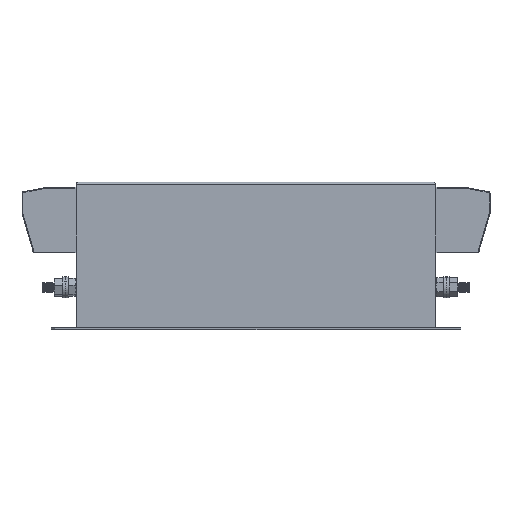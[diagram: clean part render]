
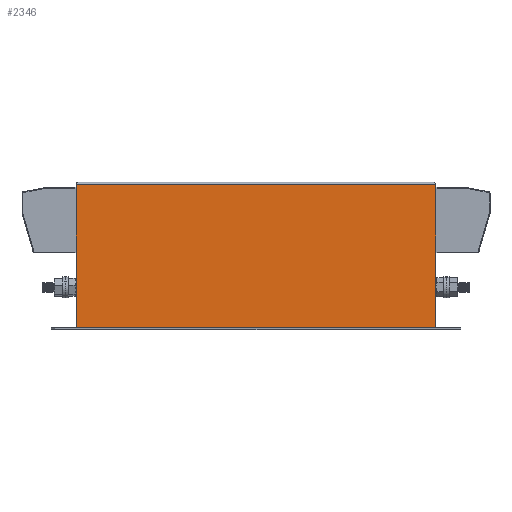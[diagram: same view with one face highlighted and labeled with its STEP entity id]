
A CAD part, top view. The second image highlights one B-rep face of the part: STEP entity #2346.
In plain terms, the highlighted planar face has unit normal (0, 0, 1).
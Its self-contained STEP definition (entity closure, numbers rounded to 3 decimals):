
#2263 = VERTEX_POINT ( 'NONE', #7028 ) ;
#2269 = VERTEX_POINT ( 'NONE', #7018 ) ;
#2271 = EDGE_CURVE ( 'NONE', #2263, #2269, #7017, .T. ) ;
#2346 = ADVANCED_FACE ( 'NONE', ( #7167 ), #7166, .F. ) ;
#2347 = EDGE_LOOP ( 'NONE', ( #2348, #2351, #2353, #2413 ) ) ;
#2348 = ORIENTED_EDGE ( 'NONE', *, *, #2349, .F. ) ;
#2349 = EDGE_CURVE ( 'NONE', #2350, #2269, #7161, .T. ) ;
#2350 = VERTEX_POINT ( 'NONE', #7157 ) ;
#2351 = ORIENTED_EDGE ( 'NONE', *, *, #2352, .T. ) ;
#2352 = EDGE_CURVE ( 'NONE', #2350, #2366, #7156, .T. ) ;
#2353 = ORIENTED_EDGE ( 'NONE', *, *, #2365, .T. ) ;
#2365 = EDGE_CURVE ( 'NONE', #2366, #2263, #7204, .T. ) ;
#2366 = VERTEX_POINT ( 'NONE', #7200 ) ;
#2413 = ORIENTED_EDGE ( 'NONE', *, *, #2271, .T. ) ;
#7014 = DIRECTION ( 'NONE',  ( 1., 0., 0. ) ) ;
#7015 = VECTOR ( 'NONE', #7014, 1000. ) ;
#7016 = CARTESIAN_POINT ( 'NONE',  ( 15., 1.2, 1.2 ) ) ;
#7017 = LINE ( 'NONE', #7016, #7015 ) ;
#7018 = CARTESIAN_POINT ( 'NONE',  ( 235., 1.2, 1.2 ) ) ;
#7028 = CARTESIAN_POINT ( 'NONE',  ( 15., 1.2, 1.2 ) ) ;
#7153 = DIRECTION ( 'NONE',  ( -1., 0., 0. ) ) ;
#7154 = VECTOR ( 'NONE', #7153, 1000. ) ;
#7155 = CARTESIAN_POINT ( 'NONE',  ( 15., 88.5, 1.2 ) ) ;
#7156 = LINE ( 'NONE', #7155, #7154 ) ;
#7157 = CARTESIAN_POINT ( 'NONE',  ( 235., 88.5, 1.2 ) ) ;
#7158 = DIRECTION ( 'NONE',  ( 0., -1., 0. ) ) ;
#7159 = VECTOR ( 'NONE', #7158, 1000. ) ;
#7160 = CARTESIAN_POINT ( 'NONE',  ( 235., 90., 1.2 ) ) ;
#7161 = LINE ( 'NONE', #7160, #7159 ) ;
#7162 = DIRECTION ( 'NONE',  ( -1., 0., 0. ) ) ;
#7163 = DIRECTION ( 'NONE',  ( 0., 0., -1. ) ) ;
#7164 = CARTESIAN_POINT ( 'NONE',  ( 15., 90., 1.2 ) ) ;
#7165 = AXIS2_PLACEMENT_3D ( 'NONE', #7164, #7163, #7162 ) ;
#7166 = PLANE ( 'NONE',  #7165 ) ;
#7167 = FACE_OUTER_BOUND ( 'NONE', #2347, .T. ) ;
#7200 = CARTESIAN_POINT ( 'NONE',  ( 15., 88.5, 1.2 ) ) ;
#7201 = DIRECTION ( 'NONE',  ( 0., -1., 0. ) ) ;
#7202 = VECTOR ( 'NONE', #7201, 1000. ) ;
#7203 = CARTESIAN_POINT ( 'NONE',  ( 15., 90., 1.2 ) ) ;
#7204 = LINE ( 'NONE', #7203, #7202 ) ;
